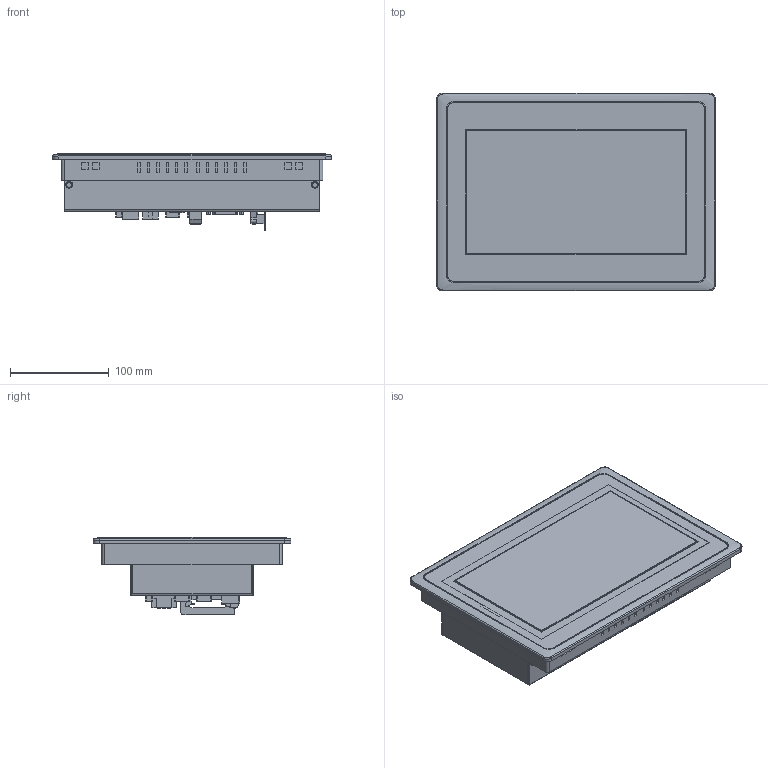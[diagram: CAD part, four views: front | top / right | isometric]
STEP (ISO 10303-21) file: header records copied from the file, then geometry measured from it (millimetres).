
FILE_DESCRIPTION (( 'STEP AP214' ), '1' );
FILE_NAME ('錨璃1^10.1渡珨极儂.STEP', '2023-05-08T03:04:30', ( '' ), ( '' ), 'SwSTEP 2.0', 'SolidWorks 2018', '' );
FILE_SCHEMA (( 'AUTOMOTIVE_DESIGN' ));
Length unit declared in the file: millimetre
Products named in the file (1): 錨璃1^10.1渡珨极儂
Bounding box: 282 x 200 x 78.4 mm (x, y, z)
Volume: 2225616.5 mm3; surface area: 344938.5 mm2
Topology: 1 solids, 14 shells, 1075 faces, 2807 edges, 1880 vertices
Faces by surface type: plane 860, cylinder 195, bspline 16, cone 4
Full cylindrical faces by diameter (mm): 0.686 x52, 0.983 x3, 1.207 x8, 2.5 x1, 2.6 x3, 3 x4, 3.497 x1, 3.5 x4, 3.8 x8, 4.5 x1, 5.4 x1
Entity records: 35761 total; most frequent: CARTESIAN_POINT 9539, ORIENTED_EDGE 5338, DIRECTION 5079, EDGE_CURVE 2669, LINE 2195, VECTOR 2195, VERTEX_POINT 1834, AXIS2_PLACEMENT_3D 1442
